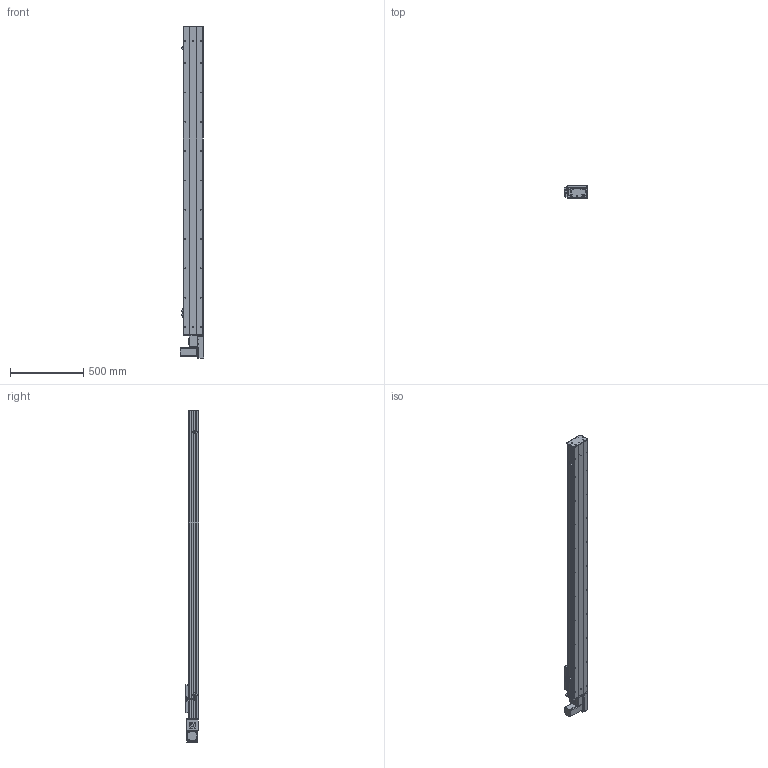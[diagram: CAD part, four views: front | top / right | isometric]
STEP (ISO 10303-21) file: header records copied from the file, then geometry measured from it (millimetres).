
FILE_DESCRIPTION (( 'STEP AP203' ), '1' );
FILE_NAME ('Y135CB-D90-S1800-BL-P400W.STEP', '2020-02-18T01:26:42', ( '微软用户' ), ( '微软中国' ), 'SwSTEP 2.0', 'SolidWorks 2017', '' );
FILE_SCHEMA (( 'CONFIG_CONTROL_DESIGN' ));
Length unit declared in the file: millimetre
Products named in the file (18): Y10B--々湍喘謫眊--666; 135CB--詩湍-CE; Y10B-耜蚾蟀諉啣----; Y100-135俋离換覜ん--; Y俋欶BR----; Y135C-陔俋离換覜結え-; 0B-埴倛裔啣; 5C--俋欶; 0B-源倛裔啣; C-雄赽釱--; 0B-萇儂楊擘啣; Y135CB-耜裔; Y135CB-D90-S1800-BL-P400W; san松下电机400不带刹车----; 135CB---遴掛极.-; 5CB --掛极耜裔啣-; 35CB---喘謫眊楊擘啣; C-詩湍揤踡え-陔
Assembly tree (21 placements, depth 2):
  Y135CB-D90-S1800-BL-P400W
    Y135CB-耜裔
    135CB---遴掛极.-
    35CB---喘謫眊楊擘啣
    Y10B--々湍喘謫眊--666
    Y10B-耜蚾蟀諉啣----
    Y俋欶BR----
    0B-埴倛裔啣
    0B-源倛裔啣
    0B-萇儂楊擘啣
    san松下电机400不带刹车----
    5CB --掛极耜裔啣-  x2
    C-詩湍揤踡え-陔  x2
    135CB--詩湍-CE
    Y100-135俋离換覜ん--  x3
    Y135C-陔俋离換覜結え-
    5C--俋欶
    C-雄赽釱--
Bounding box: 157.5 x 91 x 2264.5 mm (x, y, z)
Volume: 6464831.3 mm3; surface area: 2551343.3 mm2
Topology: 21 solids, 21 shells, 961 faces, 2599 edges, 1722 vertices
Faces by surface type: cylinder 487, plane 458, cone 16
Entity records: 30149 total; most frequent: DIRECTION 5007, CARTESIAN_POINT 4988, ORIENTED_EDGE 4674, EDGE_CURVE 2337, AXIS2_PLACEMENT_3D 1829, VERTEX_POINT 1550, LINE 1349, VECTOR 1349
